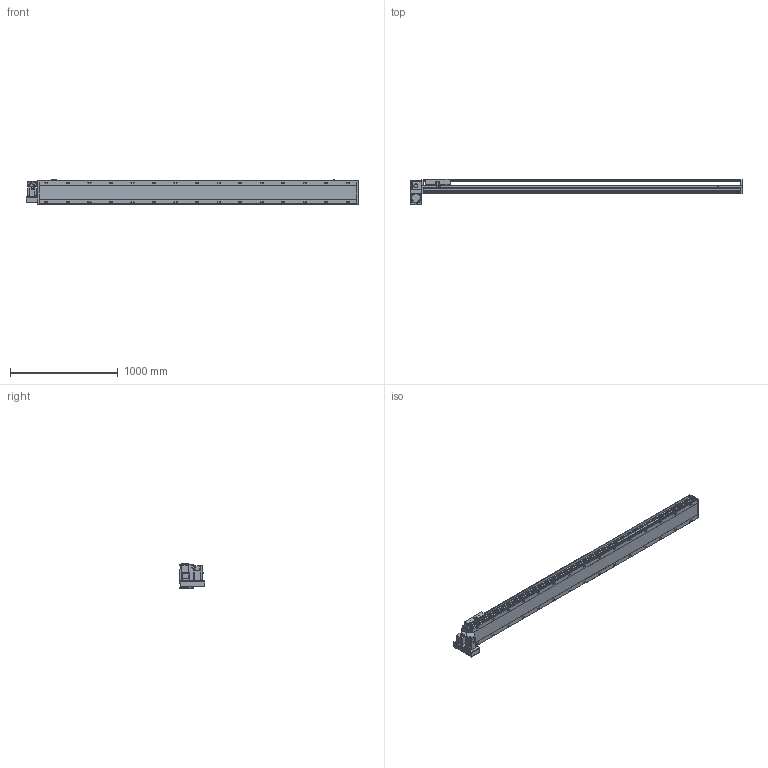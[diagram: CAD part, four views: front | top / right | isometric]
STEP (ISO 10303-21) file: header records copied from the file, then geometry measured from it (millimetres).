
FILE_DESCRIPTION(/* description */ ('STEP AP214'),/* implementation_level */ '2;1');
FILE_NAME(/* name */ 'PBS220-P40-S2600-LD-T75-C1-N(0)',/* time_stamp */ '2022-06-27T09:46:29+02:00',/* author */ ('License CC BY-ND 4.0'),/* organization */ ('CADENAS'),/* preprocessor_version */ 'ST-DEVELOPER v18.102',/* originating_system */ 'PARTsolutions',/* authorisation */ ' ');
FILE_SCHEMA (('AUTOMOTIVE_DESIGN {1 0 10303 214 3 1 1}'));
Length unit declared in the file: millimetre
Products named in the file (7): PBS220-P40-S2600-LD-T75-C1-N(0); PBS220_sensor; PBS220_plant; PBS220_sliser; T75-p1; PBS220T-LD_motors; PBS220-S2600()_body
Assembly tree (8 placements, depth 2):
  PBS220-P40-S2600-LD-T75-C1-N(0)
    PBS220_sensor  x3
    PBS220_plant
    PBS220_sliser
    T75-p1
    PBS220T-LD_motors
    PBS220-S2600()_body
Bounding box: 3084 x 239 x 238.5 mm (x, y, z)
Volume: 43009330.6 mm3; surface area: 3932712.1 mm2
Topology: 8 solids, 8 shells, 998 faces, 2592 edges, 1684 vertices
Faces by surface type: plane 626, cylinder 318, cone 54
Full cylindrical faces by diameter (mm): 2.013 x4, 4.5 x14, 4.917 x4, 6 x7, 6.647 x8, 8 x10, 8.376 x30, 8.5 x30, 10 x6, 14 x30, 38 x2, 40 x1, 70 x1
Entity records: 27812 total; most frequent: CARTESIAN_POINT 4954, DIRECTION 4833, ORIENTED_EDGE 4358, EDGE_CURVE 2179, AXIS2_PLACEMENT_3D 1737, VERTEX_POINT 1528, LINE 1359, VECTOR 1359
